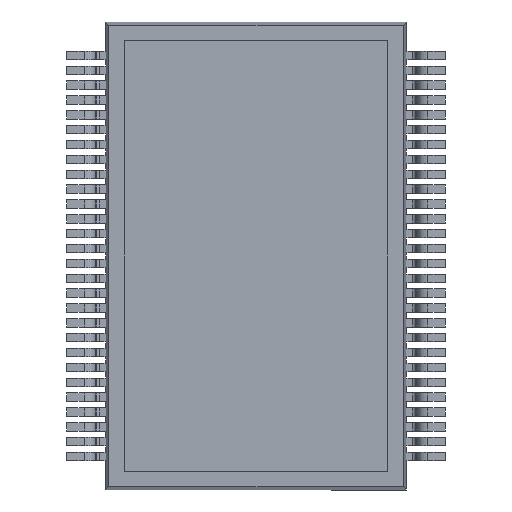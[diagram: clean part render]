
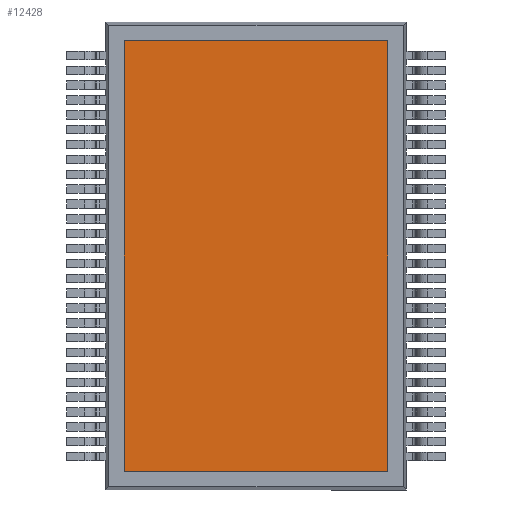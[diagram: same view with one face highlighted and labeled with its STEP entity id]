
A CAD part, front view. The second image highlights one B-rep face of the part: STEP entity #12428.
In plain terms, the highlighted planar face has unit normal (0, -1, 0).
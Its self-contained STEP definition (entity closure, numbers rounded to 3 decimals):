
#513 = PLANE ( 'NONE',  #30192 ) ;
#532 = CARTESIAN_POINT ( 'NONE',  ( 0., 0., 0. ) ) ;
#533 = DIRECTION ( 'NONE',  ( 0., 1., 0. ) ) ;
#534 = DIRECTION ( 'NONE',  ( 0., 0., 1. ) ) ;
#4307 = CARTESIAN_POINT ( 'NONE',  ( 3.55, 0., 5.8 ) ) ;
#4312 = DIRECTION ( 'NONE',  ( 0., 0., 1. ) ) ;
#4313 = CARTESIAN_POINT ( 'NONE',  ( -3.55, 0., 5.8 ) ) ;
#4315 = CARTESIAN_POINT ( 'NONE',  ( -3.55, 0., 5.8 ) ) ;
#4318 = DIRECTION ( 'NONE',  ( -1., 0., 0. ) ) ;
#4321 = DIRECTION ( 'NONE',  ( 0., 0., -1. ) ) ;
#4322 = CARTESIAN_POINT ( 'NONE',  ( -3.55, 0., -5.8 ) ) ;
#4323 = DIRECTION ( 'NONE',  ( 1., 0., 0. ) ) ;
#4633 = LINE ( 'NONE', #4307, #4645 ) ;
#4645 = VECTOR ( 'NONE', #4312, 1000. ) ;
#4646 = LINE ( 'NONE', #4313, #4651 ) ;
#4648 = LINE ( 'NONE', #4315, #4655 ) ;
#4651 = VECTOR ( 'NONE', #4318, 1000. ) ;
#4654 = LINE ( 'NONE', #4322, #4657 ) ;
#4655 = VECTOR ( 'NONE', #4321, 1000. ) ;
#4657 = VECTOR ( 'NONE', #4323, 1000. ) ;
#7336 = ORIENTED_EDGE ( 'NONE', *, *, #15387, .T. ) ;
#7337 = ORIENTED_EDGE ( 'NONE', *, *, #15390, .T. ) ;
#7338 = ORIENTED_EDGE ( 'NONE', *, *, #15392, .T. ) ;
#7339 = ORIENTED_EDGE ( 'NONE', *, *, #15393, .T. ) ;
#9236 = VERTEX_POINT ( 'NONE', #18969 ) ;
#9239 = VERTEX_POINT ( 'NONE', #18966 ) ;
#9242 = VERTEX_POINT ( 'NONE', #18973 ) ;
#9248 = VERTEX_POINT ( 'NONE', #18978 ) ;
#12428 = ADVANCED_FACE ( 'NONE', ( #35949 ), #513, .F. ) ;
#15387 = EDGE_CURVE ( 'NONE', #9236, #9242, #4633, .T. ) ;
#15390 = EDGE_CURVE ( 'NONE', #9242, #9248, #4646, .T. ) ;
#15392 = EDGE_CURVE ( 'NONE', #9248, #9239, #4648, .T. ) ;
#15393 = EDGE_CURVE ( 'NONE', #9239, #9236, #4654, .T. ) ;
#18966 = CARTESIAN_POINT ( 'NONE',  ( -3.55, 0., -5.8 ) ) ;
#18969 = CARTESIAN_POINT ( 'NONE',  ( 3.55, 0., -5.8 ) ) ;
#18973 = CARTESIAN_POINT ( 'NONE',  ( 3.55, 0., 5.8 ) ) ;
#18978 = CARTESIAN_POINT ( 'NONE',  ( -3.55, 0., 5.8 ) ) ;
#30192 = AXIS2_PLACEMENT_3D ( 'NONE', #532, #533, #534 ) ;
#31963 = EDGE_LOOP ( 'NONE', ( #7336, #7337, #7338, #7339 ) ) ;
#35949 = FACE_OUTER_BOUND ( 'NONE', #31963, .T. ) ;
